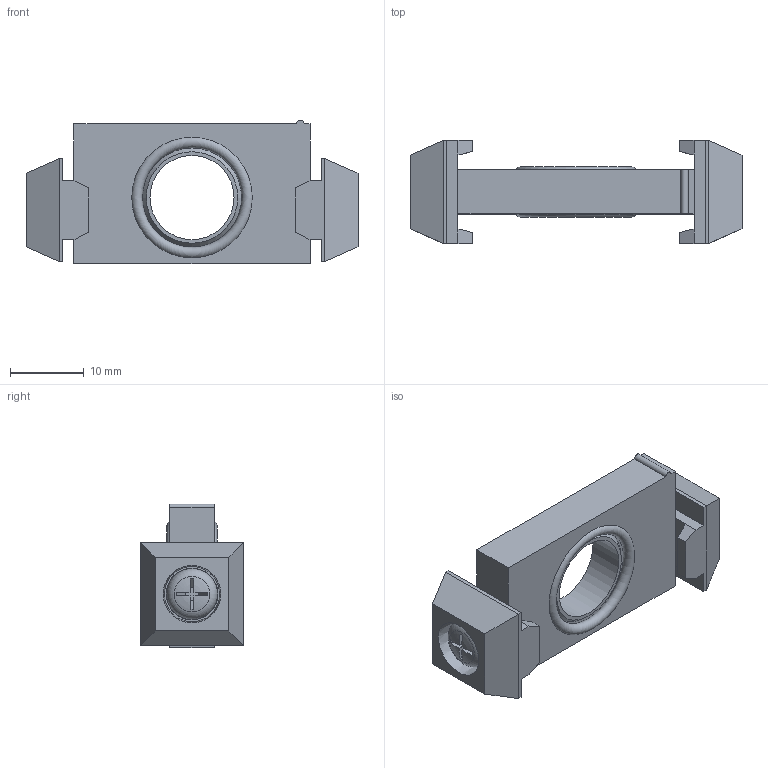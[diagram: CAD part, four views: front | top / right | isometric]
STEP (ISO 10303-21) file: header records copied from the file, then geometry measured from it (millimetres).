
FILE_DESCRIPTION(/* description */ ('Unknown'),/* implementation_level */ '2;1');
FILE_NAME(/* name */ 'BS-MACP200',/* time_stamp */ '2026-05-06T10:23:25+08:00',/* author */ ('Unknown'),/* organization */ ('Unknown'),/* preprocessor_version */ 'ST-DEVELOPER v16.7',/* originating_system */ 'DEX',/* authorisation */ $);
FILE_SCHEMA (('AUTOMOTIVE_DESIGN {1 0 10303 214 3 1 1}'));
Length unit declared in the file: millimetre
Products named in the file (1): BS-MACP200
Bounding box: 45 x 14 x 19.5 mm (x, y, z)
Volume: 4740.3 mm3; surface area: 4131.3 mm2
Topology: 1 solids, 3 shells, 135 faces, 323 edges, 204 vertices
Faces by surface type: plane 105, cylinder 16, cone 8, torus 6
Full cylindrical faces by diameter (mm): 3.459 x4, 3.6 x2, 4 x2, 4.5 x2, 11.4 x1, 16.3 x2
Entity records: 4591 total; most frequent: CARTESIAN_POINT 682, DIRECTION 584, ORIENTED_EDGE 564, EDGE_CURVE 282, LINE 204, VECTOR 204, VERTEX_POINT 192, AXIS2_PLACEMENT_3D 190
